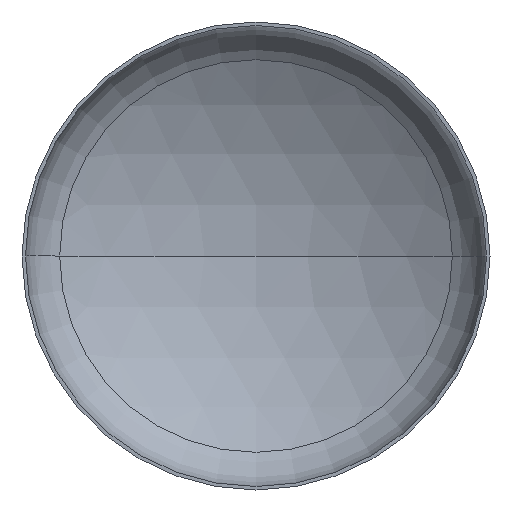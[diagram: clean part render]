
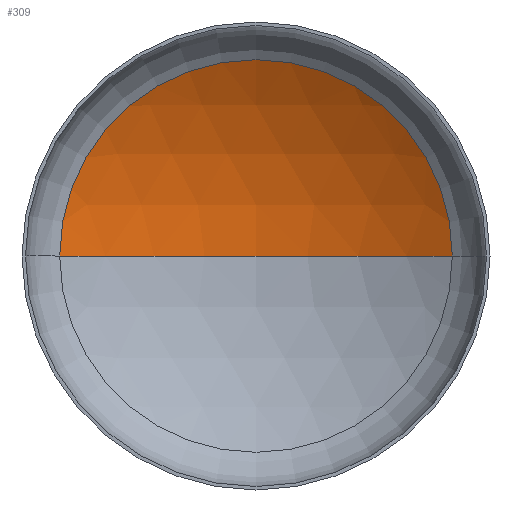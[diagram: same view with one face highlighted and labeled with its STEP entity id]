
A CAD part, front view. The second image highlights one B-rep face of the part: STEP entity #309.
In plain terms, the highlighted spherical face has radius 2240 mm.
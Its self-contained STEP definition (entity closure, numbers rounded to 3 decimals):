
#11 = EDGE_LOOP ( 'NONE', ( #96, #88, #35 ) ) ;
#21 = VERTEX_POINT ( 'NONE', #269 ) ;
#35 = ORIENTED_EDGE ( 'NONE', *, *, #260, .T. ) ;
#37 = VERTEX_POINT ( 'NONE', #304 ) ;
#86 = VERTEX_POINT ( 'NONE', #232 ) ;
#88 = ORIENTED_EDGE ( 'NONE', *, *, #263, .T. ) ;
#89 = AXIS2_PLACEMENT_3D ( 'NONE', #162, #176, #155 ) ;
#96 = ORIENTED_EDGE ( 'NONE', *, *, #266, .F. ) ;
#139 = CIRCLE ( 'NONE', #144, 2240. ) ;
#144 = AXIS2_PLACEMENT_3D ( 'NONE', #291, #250, #245 ) ;
#148 = CIRCLE ( 'NONE', #149, 2240. ) ;
#149 = AXIS2_PLACEMENT_3D ( 'NONE', #204, #225, #221 ) ;
#154 = AXIS2_PLACEMENT_3D ( 'NONE', #382, #405, #273 ) ;
#155 = DIRECTION ( 'NONE',  ( -1., 0., 0. ) ) ;
#162 = CARTESIAN_POINT ( 'NONE',  ( 0., -1471.265, 0. ) ) ;
#176 = DIRECTION ( 'NONE',  ( 0., 0., -1. ) ) ;
#201 = SPHERICAL_SURFACE ( 'NONE', #89, 2240. ) ;
#204 = CARTESIAN_POINT ( 'NONE',  ( 0., -1471.265, 0. ) ) ;
#221 = DIRECTION ( 'NONE',  ( -1., 0., 0. ) ) ;
#225 = DIRECTION ( 'NONE',  ( 0., 0., -1. ) ) ;
#232 = CARTESIAN_POINT ( 'NONE',  ( -1174.453, 436.157, 0. ) ) ;
#245 = DIRECTION ( 'NONE',  ( 1., 0., 0. ) ) ;
#250 = DIRECTION ( 'NONE',  ( 0., 0., 1. ) ) ;
#260 = EDGE_CURVE ( 'NONE', #37, #86, #408, .T. ) ;
#263 = EDGE_CURVE ( 'NONE', #21, #37, #148, .T. ) ;
#266 = EDGE_CURVE ( 'NONE', #21, #86, #139, .T. ) ;
#269 = CARTESIAN_POINT ( 'NONE',  ( 0., 768.735, 0. ) ) ;
#273 = DIRECTION ( 'NONE',  ( 1., 0., 0. ) ) ;
#291 = CARTESIAN_POINT ( 'NONE',  ( 0., -1471.265, 0. ) ) ;
#304 = CARTESIAN_POINT ( 'NONE',  ( 1174.453, 436.157, 0. ) ) ;
#309 = ADVANCED_FACE ( 'NONE', ( #342 ), #201, .F. ) ;
#342 = FACE_OUTER_BOUND ( 'NONE', #11, .T. ) ;
#382 = CARTESIAN_POINT ( 'NONE',  ( 0., 436.157, 0. ) ) ;
#405 = DIRECTION ( 'NONE',  ( 0., -1., 0. ) ) ;
#408 = CIRCLE ( 'NONE', #154, 1174.453 ) ;
